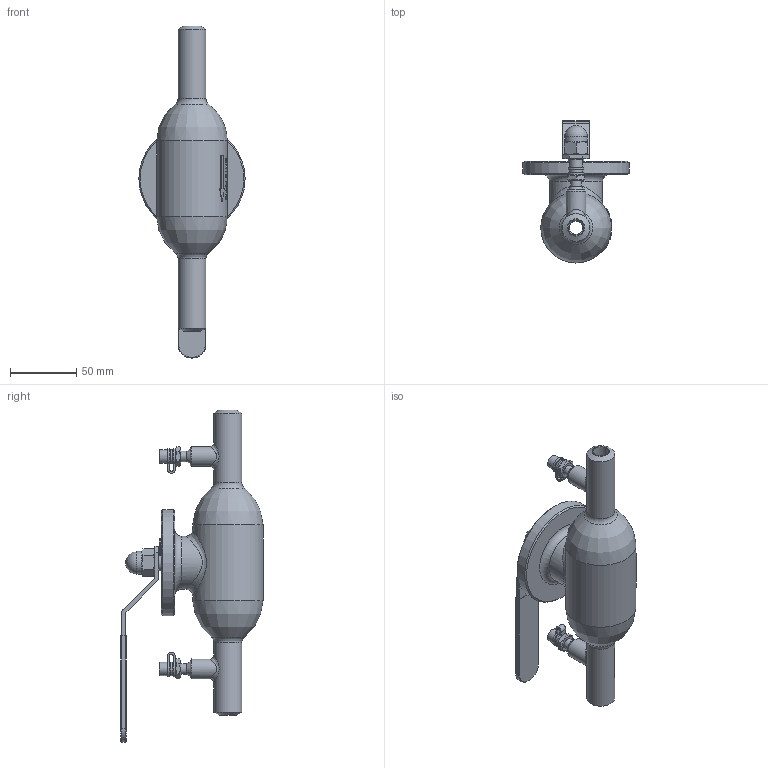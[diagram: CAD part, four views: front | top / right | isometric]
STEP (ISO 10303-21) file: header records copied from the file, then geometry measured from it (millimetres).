
FILE_DESCRIPTION(('STEP AP214'), '1');
FILE_NAME('BVR3232P-SP-W-H Êðàí øàðîâîé ðåãóëèðóþùèé DN.ru Äó15 Py40', '', ('UNSPECIFIED'), ('UNSPECIFIED'), 'C3D Converter', 'C3D Toolkit', '');
FILE_SCHEMA(('AUTOMOTIVE_DESIGN { 1 0 10303 214 3 1 1}'));
Length unit declared in the file: millimetre
Bounding box: 80 x 107 x 250 mm (x, y, z)
Volume: 324151.2 mm3; surface area: 59988.3 mm2
Topology: 1 solids, 1 shells, 840 faces, 2165 edges, 1435 vertices
Faces by surface type: plane 422, bspline 177, extrusion 127, cylinder 86, cone 18, torus 7, revolution 2, sphere 1
Full cylindrical faces by diameter (mm): 8 x10, 10 x5, 12 x3, 15 x2, 17 x1, 21 x2, 40 x1, 53 x1, 80 x1
Entity records: 82445 total; most frequent: CARTESIAN_POINT 62534, ORIENTED_EDGE 4220, DIRECTION 2795, EDGE_CURVE 2110, VERTEX_POINT 1433, VECTOR 1213, LINE 1086, EDGE_LOOP 1007
